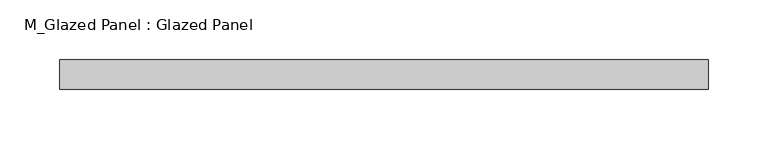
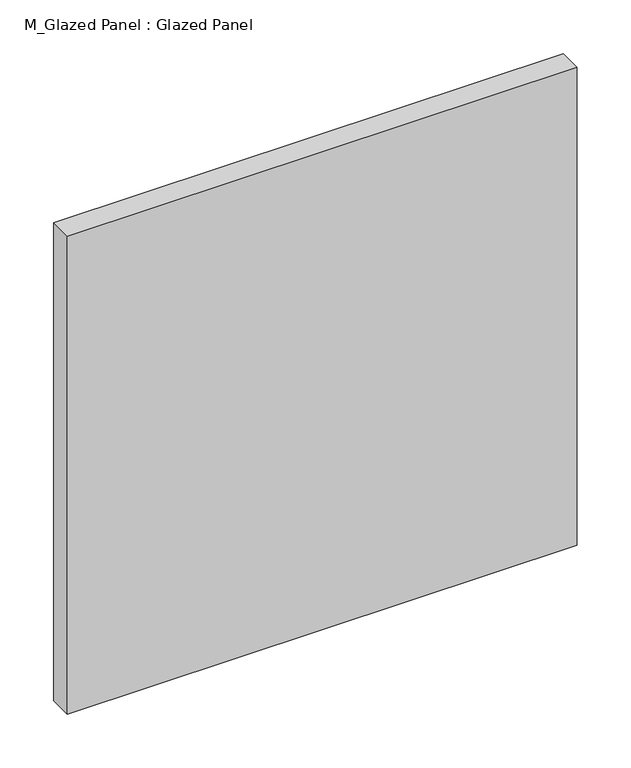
"""IFC4 building model written with IfcOpenShell, lengths in millimetres: plate geometry, M_Glazed Panel : Glazed Panel."""

from ifc_helpers import new_model, si_unit, origin, origin_with_axes, place, context, project, spatial, polyline, outline, extrude, source, transform, mapped, element, save


def m_glazed_panel_glazed_panel_c1b7c775(model_context):
    return source(origin(), model_context, "Body", "SweptSolid", [
        extrude(outline(polyline([(272.5, 38.5), (-272.5, 38.5), (-272.5, 63.5), (272.5, 63.5), (272.5, 38.5)])), origin_with_axes(), (0.0, 0.0, 1.0), 540.1015074),
    ])


if __name__ == "__main__":
    model = new_model("IFC4")
    model_context = context("Model", 3, world=origin())
    ifc_project = project(units=[si_unit("LENGTHUNIT", "METRE", prefix="MILLI")], contexts=[model_context])
    site = spatial("IfcSite", under=ifc_project)
    building = spatial("IfcBuilding", under=site)
    placement = place(None, origin())
    m_glazed_panel_glazed_panel_shape = m_glazed_panel_glazed_panel_c1b7c775(model_context)
    element("IfcPlate", 1, ObjectType="M_Glazed Panel : Glazed Panel", at=placement, inside=building, context=model_context, shape_type="MappedRepresentation", body=[
        mapped(m_glazed_panel_glazed_panel_shape, transform((0.0, 0.0, 0.0), x_axis=(1.0, 0.0, 0.0), y_axis=(0.0, 1.0, 0.0), z_axis=(0.0, 0.0, 1.0))),
    ])
    save(model, "model.ifc")
